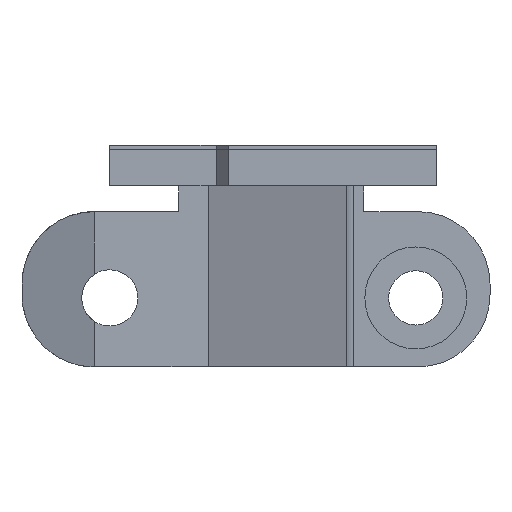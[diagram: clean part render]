
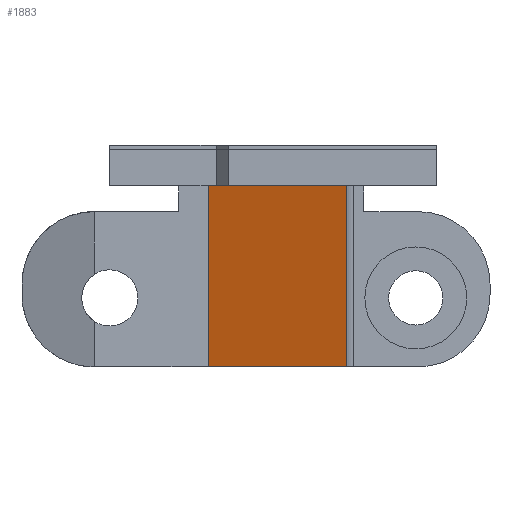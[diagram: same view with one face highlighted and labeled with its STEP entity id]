
A CAD part, left-side view. The second image highlights one B-rep face of the part: STEP entity #1883.
In plain terms, the highlighted planar face has unit normal (-0.934, 0.358, 0).
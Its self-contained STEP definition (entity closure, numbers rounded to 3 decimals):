
#344 = CARTESIAN_POINT ( 'NONE',  ( 187.9, 112.222, 28.1 ) ) ;
#352 = LINE ( 'NONE', #355, #361 ) ;
#355 = CARTESIAN_POINT ( 'NONE',  ( 187.9, 112.222, 28.1 ) ) ;
#360 = CARTESIAN_POINT ( 'NONE',  ( 182.033, 96.932, 28.1 ) ) ;
#361 = VECTOR ( 'NONE', #364, 1000. ) ;
#364 = DIRECTION ( 'NONE',  ( -0.358, -0.934, 0. ) ) ;
#1821 = ORIENTED_EDGE ( 'NONE', *, *, #2656, .F. ) ;
#1877 = EDGE_CURVE ( 'NONE', #2647, #2191, #3127, .T. ) ;
#1883 = ADVANCED_FACE ( 'NONE', ( #3150 ), #3195, .T. ) ;
#1893 = ORIENTED_EDGE ( 'NONE', *, *, #1877, .T. ) ;
#1894 = ORIENTED_EDGE ( 'NONE', *, *, #1923, .T. ) ;
#1897 = ORIENTED_EDGE ( 'NONE', *, *, #2221, .T. ) ;
#1902 = EDGE_LOOP ( 'NONE', ( #1897, #1894, #1821, #1893 ) ) ;
#1923 = EDGE_CURVE ( 'NONE', #2018, #2651, #3039, .T. ) ;
#2018 = VERTEX_POINT ( 'NONE', #3414 ) ;
#2191 = VERTEX_POINT ( 'NONE', #3938 ) ;
#2221 = EDGE_CURVE ( 'NONE', #2191, #2018, #4188, .T. ) ;
#2647 = VERTEX_POINT ( 'NONE', #344 ) ;
#2651 = VERTEX_POINT ( 'NONE', #360 ) ;
#2656 = EDGE_CURVE ( 'NONE', #2647, #2651, #352, .T. ) ;
#3039 = LINE ( 'NONE', #3097, #3102 ) ;
#3090 = DIRECTION ( 'NONE',  ( 0., 0., 1. ) ) ;
#3097 = CARTESIAN_POINT ( 'NONE',  ( 182.033, 96.932, 27.6 ) ) ;
#3102 = VECTOR ( 'NONE', #3090, 1000. ) ;
#3127 = LINE ( 'NONE', #3136, #3135 ) ;
#3132 = DIRECTION ( 'NONE',  ( 0., 0., -1. ) ) ;
#3135 = VECTOR ( 'NONE', #3132, 1000. ) ;
#3136 = CARTESIAN_POINT ( 'NONE',  ( 187.9, 112.222, 27.6 ) ) ;
#3150 = FACE_OUTER_BOUND ( 'NONE', #1902, .T. ) ;
#3185 = CARTESIAN_POINT ( 'NONE',  ( 187.9, 112.222, 27.6 ) ) ;
#3189 = DIRECTION ( 'NONE',  ( -0.934, 0.358, 0. ) ) ;
#3191 = DIRECTION ( 'NONE',  ( -0.358, -0.934, 0. ) ) ;
#3194 = AXIS2_PLACEMENT_3D ( 'NONE', #3185, #3189, #3191 ) ;
#3195 = PLANE ( 'NONE',  #3194 ) ;
#3414 = CARTESIAN_POINT ( 'NONE',  ( 182.033, 96.932, 8.1 ) ) ;
#3938 = CARTESIAN_POINT ( 'NONE',  ( 187.9, 112.222, 8.1 ) ) ;
#4158 = CARTESIAN_POINT ( 'NONE',  ( 187.9, 112.222, 8.1 ) ) ;
#4160 = DIRECTION ( 'NONE',  ( -0.358, -0.934, 0. ) ) ;
#4181 = VECTOR ( 'NONE', #4160, 1000. ) ;
#4188 = LINE ( 'NONE', #4158, #4181 ) ;
